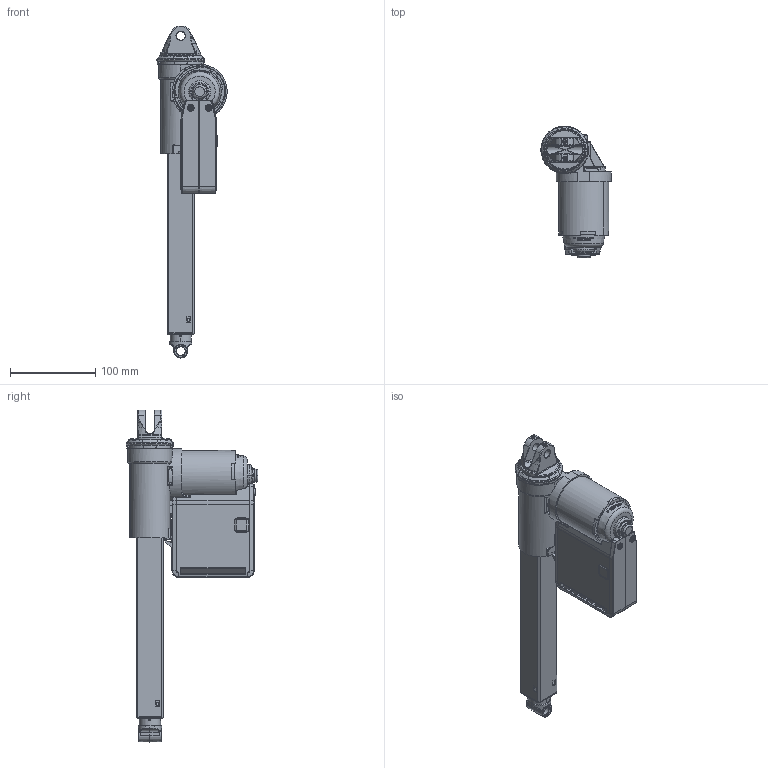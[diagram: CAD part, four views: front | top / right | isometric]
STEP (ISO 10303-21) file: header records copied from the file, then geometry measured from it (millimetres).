
FILE_DESCRIPTION((''),'2;1');
FILE_NAME('1026W4015_ASM','2020-03-31T21:33:59',('ti'),(''),'CREO PARAMETRIC BY PTC INC, 2019344','CREO PARAMETRIC BY PTC INC, 2019344','');
FILE_SCHEMA(('AUTOMOTIVE_DESIGN { 1 0 10303 214 1 1 1 1 }'));
Products named in the file (7): 1026W4016; 1026W4017; 1026W4018; 1026W4019; 1026W4021; 1026W4004; 1026W4015_ASM
Assembly tree (6 placements, depth 2):
  1026W4015_ASM
    1026W4016
    1026W4017
    1026W4018
    1026W4019
    1026W4021
    1026W4004
Bounding box: 82.45 x 154.74 x 389.6 mm (x, y, z)
Volume: 1264770.2 mm3; surface area: 187851.7 mm2
Topology: 6 solids, 8 shells, 4148 faces, 10742 edges, 6701 vertices
Faces by surface type: plane 2040, cylinder 975, bspline 504, torus 249, cone 191, sphere 131, extrusion 58
Entity records: 165422 total; most frequent: CARTESIAN_POINT 61505, ORIENTED_EDGE 21376, DIRECTION 17505, EDGE_CURVE 10688, VERTEX_POINT 6701, AXIS2_PLACEMENT_3D 6004, VECTOR 5497, LINE 5439
